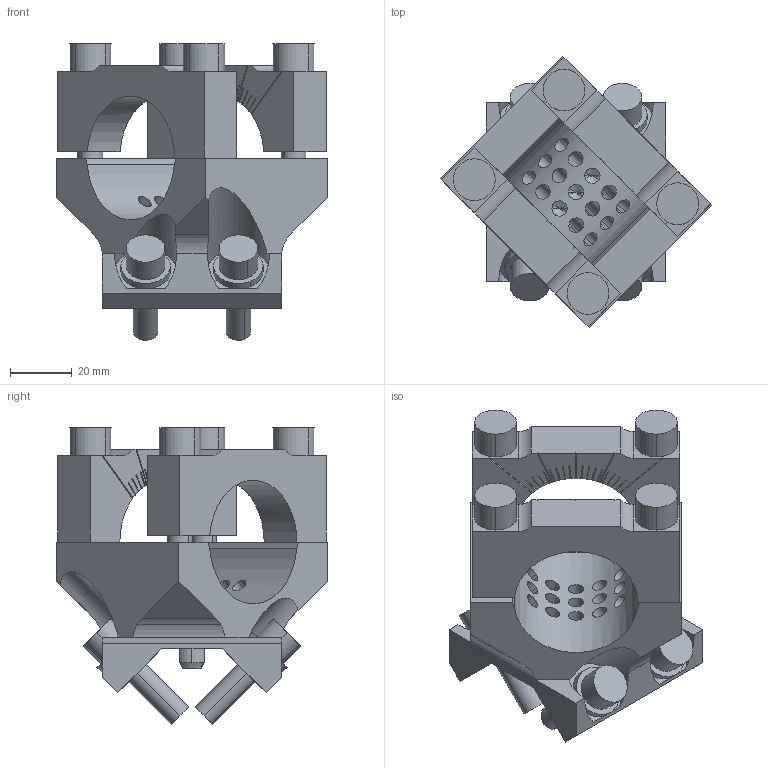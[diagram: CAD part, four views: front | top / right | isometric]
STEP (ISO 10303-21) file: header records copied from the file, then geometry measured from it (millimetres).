
FILE_DESCRIPTION(('STEP AP214'),'1');
FILE_NAME('EGT123_1720207_50RD40_X45RE.CATPart.stp','2015-09-14T13:09:20',('3D-Tool'),(' '),'Spatial InterOp 3D',' ',' ');
FILE_SCHEMA(('automotive_design'));
Length unit declared in the file: millimetre
Products named in the file (12): EGT123_1720207_50RD40_X45RE|EGT123_50RD40_X45RE|Bohrbearbeitung; EGT123_1720207_50RD40_X45RE|EGT206_SCHELLE_RD40_2|Assemble.137; EGT123_1720207_50RD40_X45RE|EGT206_SCHELLE_RD40_1|Assemble.138; 1; 2; 3; 4; 5; 6; 7; 8; EGT123_1720207_50RD40_X45RE|EGT212_Zentrierstift|Chamfer.1
Bounding box: 87.68 x 87.68 x 95.94 mm (x, y, z)
Volume: 145366.7 mm3; surface area: 51429.6 mm2
Topology: 12 solids, 12 shells, 519 faces, 1365 edges, 826 vertices
Faces by surface type: cylinder 221, plane 218, cone 80
Entity records: 21123 total; most frequent: CARTESIAN_POINT 4341, ORIENTED_EDGE 2578, DIRECTION 2563, EDGE_CURVE 1289, AXIS2_PLACEMENT_3D 937, VERTEX_POINT 826, LINE 689, VECTOR 689
